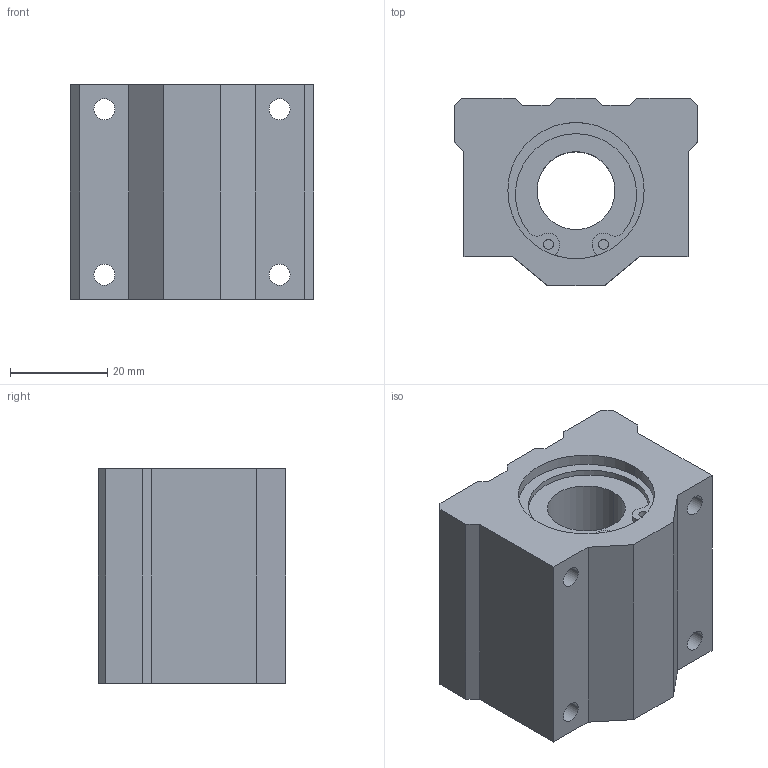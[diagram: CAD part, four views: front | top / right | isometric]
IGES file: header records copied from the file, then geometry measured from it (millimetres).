
Start section: 3D InterOp IGES (Version 21 0 1), Spatial Corp. Copyright (c) 1999-2007.
Global section: file name: LC-16VAUU.igs; native system: Spatial Corp.; preprocessor: 3D InterOp GENERIC/IGES 3.0; author: Noname; organization: Noname; date: 20220519.103714; units: millimetre
Bounding box: 50 x 38.5 x 44 mm (x, y, z)
Surface area: 14367.7 mm2 (no closed solid volume)
Topology: 0 solids, 0 shells, 86 faces, 452 edges, 452 vertices
Faces by surface type: revolution 50, extrusion 36
